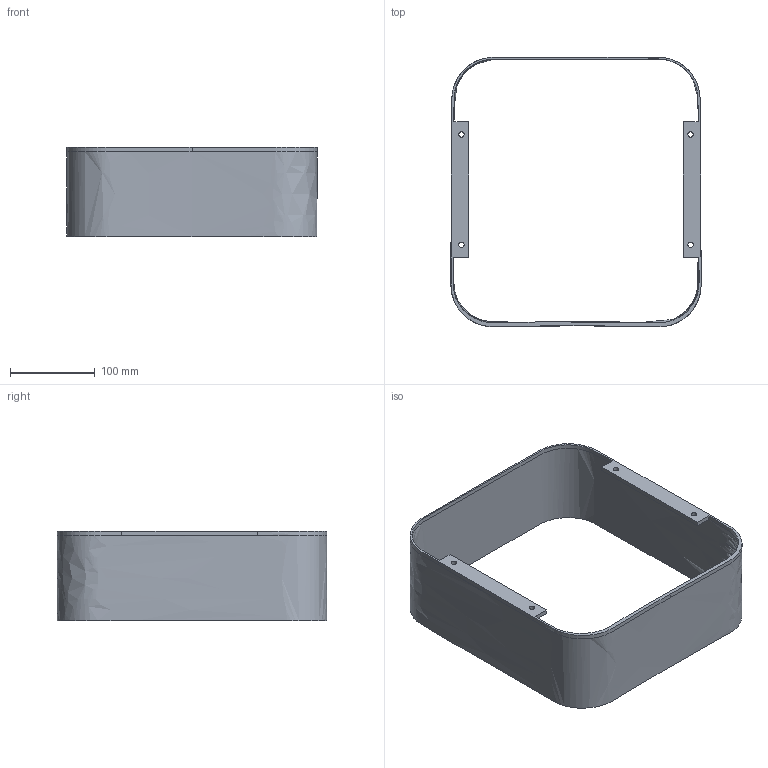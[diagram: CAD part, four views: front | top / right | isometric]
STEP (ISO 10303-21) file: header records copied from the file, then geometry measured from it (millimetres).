
FILE_DESCRIPTION(/* description */ (''),/* implementation_level */ '2;1');
FILE_NAME(/* name */ 'Storage2.step',/* time_stamp */ '2026-02-22T12:47:48+05:30',/* author */ (''),/* organization */ (''),/* preprocessor_version */ 'ST-DEVELOPER v20.1',/* originating_system */ 'Autodesk Translation Framework v14.24.0.0',/* authorisation */ '');
FILE_SCHEMA (('AUTOMOTIVE_DESIGN { 1 0 10303 214 3 1 1 }'));
Length unit declared in the file: millimetre
Products named in the file (1): Storage2
Bounding box: 294.64 x 317.53 x 105 mm (x, y, z)
Volume: 3493911.3 mm3; surface area: 270532.6 mm2
Topology: 1 solids, 1 shells, 25 faces, 60 edges, 37 vertices
Faces by surface type: plane 14, bspline 7, cylinder 4
Full cylindrical faces by diameter (mm): 6.5 x4
Entity records: 4373 total; most frequent: CARTESIAN_POINT 3781, ORIENTED_EDGE 120, DIRECTION 89, EDGE_CURVE 60, VERTEX_POINT 37, EDGE_LOOP 35, LINE 35, VECTOR 35
